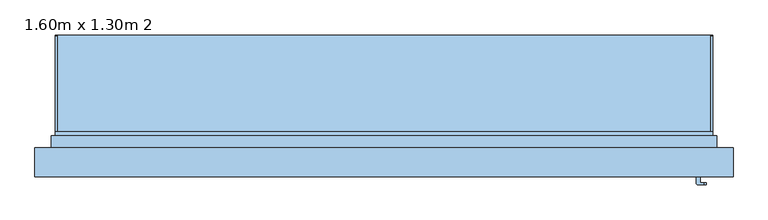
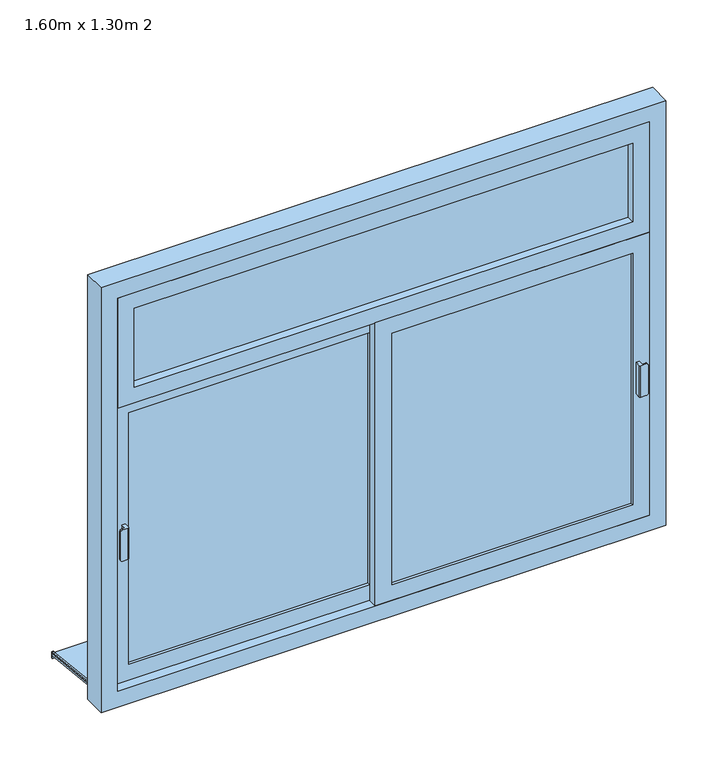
"""IFC4 building model written with IfcOpenShell, lengths in millimetres: window geometry, 2 Vantaux coul. - Imposte haute : 1.60m x 1.30m 2."""

from ifc_helpers import new_model, si_unit, point, frame, frame_2d, origin, place, context, project, spatial, polyline, circle_curve, trimmed, segment, composite_curve, outline, extrude, faceted_brep, source, transform, mapped, element, save
from ifc_brep_helpers import plane_surface, cylinder_surface, advanced_brep


def window_1_60m_x_1_30m_2_3fc02772(model_context):
    return source(origin(), model_context, "Body", "SolidModel", [
        advanced_brep(
        [(-760.0, -152.5313182, 1250.0), (-762.4686818, -155.0, 1250.0), (-779.0477825, -155.0, 1250.0), (-779.0477825, -150.0, 1250.0), (-770.0, -150.0, 1250.0), (-770.0, -135.0, 1250.0), (-760.0, -135.0, 1250.0), (-760.0, -152.5313182, 1350.0), (-760.0, -135.0, 1350.0), (-770.0, -135.0, 1350.0), (-770.0, -150.0, 1350.0), (-779.0477825, -150.0, 1350.0), (-779.0477825, -155.0, 1350.0), (-762.4686818, -155.0, 1350.0), (-785.0, -150.0, 1255.9522175), (-785.0, -150.0, 1344.0477825), (-785.0, -155.0, 1255.9522175), (-785.0, -155.0, 1344.0477825)],
        [
            (0, 1),
            (1, 2),
            (2, 3),
            (3, 4),
            (4, 5),
            (5, 6),
            (6, 0),
            (7, 8),
            (8, 9),
            (9, 10),
            (10, 11),
            (11, 12),
            (12, 13),
            (13, 7),
            (6, 8),
            (7, 0),
            (5, 9),
            (4, 10),
            (3, 14, circle_curve(frame((-779.0477825, -150.0, 1255.9522175), z_axis=(0.0, 1.0, 0.0), x_axis=(-1.0, 0.0, 0.0)), 5.9522175)),
            (14, 15),
            (15, 11, circle_curve(frame((-779.0477825, -150.0, 1344.0477825), z_axis=(0.0, 1.0, 0.0), x_axis=(-1.0, 0.0, 0.0)), 5.9522175)),
            (14, 16),
            (16, 17),
            (17, 15),
            (12, 17, circle_curve(frame((-779.0477825, -155.0, 1344.0477825), z_axis=(0.0, -1.0, 0.0), x_axis=(-1.0, 0.0, 0.0)), 5.9522175)),
            (16, 2, circle_curve(frame((-779.0477825, -155.0, 1255.9522175), z_axis=(0.0, -1.0, 0.0), x_axis=(-1.0, 0.0, 0.0)), 5.9522175)),
            (1, 13),
        ],
        [
            plane_surface(frame((-760.0, -135.0, 1250.0), z_axis=(0.0, 0.0, -1.0), x_axis=(0.0, 1.0, 0.0))),
            plane_surface(frame((-760.0, -135.0, 1350.0), z_axis=(0.0, 0.0, 1.0), x_axis=(0.0, -1.0, 0.0))),
            plane_surface(frame((-760.0, -152.5313182, 1250.0), z_axis=(1.0, 0.0, 0.0), x_axis=(0.0, 0.0, 1.0))),
            plane_surface(frame((-760.0, -135.0, 1250.0), z_axis=(0.0, 1.0, 0.0), x_axis=(0.0, 0.0, 1.0))),
            plane_surface(frame((-770.0, -135.0, 1250.0), z_axis=(-1.0, 0.0, 0.0), x_axis=(0.0, 0.0, 1.0))),
            plane_surface(frame((-770.0, -150.0, 1250.0), z_axis=(0.0, 1.0, 0.0), x_axis=(0.0, 0.0, 1.0))),
            plane_surface(frame((-785.0, -150.0, 1250.0), z_axis=(-1.0, 0.0, 0.0), x_axis=(0.0, 0.0, 1.0))),
            plane_surface(frame((-785.0, -155.0, 1250.0), z_axis=(0.0, -1.0, 0.0), x_axis=(0.0, 0.0, 1.0))),
            plane_surface(frame((-762.4686818, -155.0, 1250.0), z_axis=(0.7071067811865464, -0.7071067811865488, 0.0), x_axis=(0.0, 0.0, 1.0))),
            cylinder_surface(frame((-779.0477825, -150.0, 1344.0477825), z_axis=(0.0, 1.0, 0.0), x_axis=(-1.0, 0.0, 0.0)), 5.9522175),
            cylinder_surface(frame((-779.0477825, -150.0, 1255.9522175), z_axis=(0.0, 1.0, 0.0), x_axis=(-1.0, 0.0, 0.0)), 5.9522175),
        ],
        [
            (0, [[1, 2, 3, 4, 5, 6, 7]]),
            (1, [[8, 9, 10, 11, 12, 13, 14]]),
            (2, [[15, -8, 16, -7]]),
            (3, [[17, -9, -15, -6]]),
            (4, [[18, -10, -17, -5]]),
            (5, [[-4, 19, 20, 21, -11, -18]]),
            (6, [[22, 23, 24, -20]]),
            (7, [[-13, 25, -23, 26, -2, 27]]),
            (8, [[-16, -14, -27, -1]]),
            (9, [[-21, -24, -25, -12]]),
            (10, [[-26, -22, -19, -3]]),
        ],
    ),
        advanced_brep(
        [(760.0, -182.5313182, 1250.0), (760.0, -165.0, 1250.0), (770.0, -165.0, 1250.0), (770.0, -180.0, 1250.0), (779.0477825, -180.0, 1250.0), (779.0477825, -185.0, 1250.0), (762.4686818, -185.0, 1250.0), (760.0, -182.5313182, 1350.0), (762.4686818, -185.0, 1350.0), (779.0477825, -185.0, 1350.0), (779.0477825, -180.0, 1350.0), (770.0, -180.0, 1350.0), (770.0, -165.0, 1350.0), (760.0, -165.0, 1350.0), (785.0, -180.0, 1344.0477825), (785.0, -180.0, 1255.9522175), (785.0, -185.0, 1344.0477825), (785.0, -185.0, 1255.9522175)],
        [
            (0, 1),
            (1, 2),
            (2, 3),
            (3, 4),
            (4, 5),
            (5, 6),
            (6, 0),
            (7, 8),
            (8, 9),
            (9, 10),
            (10, 11),
            (11, 12),
            (12, 13),
            (13, 7),
            (0, 7),
            (13, 1),
            (12, 2),
            (11, 3),
            (10, 14, circle_curve(frame((779.0477825, -180.0, 1344.0477825), z_axis=(0.0, 1.0, 0.0), x_axis=(1.0, 0.0, 0.0)), 5.9522175)),
            (14, 15),
            (15, 4, circle_curve(frame((779.0477825, -180.0, 1255.9522175), z_axis=(0.0, 1.0, 0.0), x_axis=(1.0, 0.0, 0.0)), 5.9522175)),
            (14, 16),
            (16, 17),
            (17, 15),
            (8, 6),
            (5, 17, circle_curve(frame((779.0477825, -185.0, 1255.9522175), z_axis=(0.0, -1.0, 0.0), x_axis=(1.0, 0.0, 0.0)), 5.9522175)),
            (16, 9, circle_curve(frame((779.0477825, -185.0, 1344.0477825), z_axis=(0.0, -1.0, 0.0), x_axis=(1.0, 0.0, 0.0)), 5.9522175)),
        ],
        [
            plane_surface(frame((760.0, -165.0, 1250.0), z_axis=(0.0, 0.0, -1.0), x_axis=(0.0, 1.0, 0.0))),
            plane_surface(frame((760.0, -165.0, 1350.0), z_axis=(0.0, 0.0, 1.0), x_axis=(0.0, -1.0, 0.0))),
            plane_surface(frame((760.0, -182.5313182, 1250.0), z_axis=(-1.0, 0.0, 0.0), x_axis=(0.0, 0.0, 1.0))),
            plane_surface(frame((760.0, -165.0, 1250.0), z_axis=(0.0, 1.0, 0.0), x_axis=(0.0, 0.0, 1.0))),
            plane_surface(frame((770.0, -165.0, 1250.0), z_axis=(1.0, 0.0, 0.0), x_axis=(0.0, 0.0, 1.0))),
            plane_surface(frame((770.0, -180.0, 1250.0), z_axis=(0.0, 1.0, 0.0), x_axis=(0.0, 0.0, 1.0))),
            plane_surface(frame((785.0, -180.0, 1250.0), z_axis=(1.0, 0.0, 0.0), x_axis=(0.0, 0.0, 1.0))),
            plane_surface(frame((785.0, -185.0, 1250.0), z_axis=(0.0, -1.0, 0.0), x_axis=(0.0, 0.0, 1.0))),
            plane_surface(frame((762.4686818, -185.0, 1250.0), z_axis=(-0.7071067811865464, -0.7071067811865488, 0.0), x_axis=(0.0, 0.0, 1.0))),
            cylinder_surface(frame((779.0477825, -180.0, 1344.0477825), z_axis=(0.0, 1.0, 0.0), x_axis=(1.0, 0.0, 0.0)), 5.9522175),
            cylinder_surface(frame((779.0477825, -180.0, 1255.9522175), z_axis=(0.0, 1.0, 0.0), x_axis=(1.0, 0.0, 0.0)), 5.9522175),
        ],
        [
            (0, [[1, 2, 3, 4, 5, 6, 7]]),
            (1, [[8, 9, 10, 11, 12, 13, 14]]),
            (2, [[-1, 15, -14, 16]]),
            (3, [[-2, -16, -13, 17]]),
            (4, [[-3, -17, -12, 18]]),
            (5, [[-18, -11, 19, 20, 21, -4]]),
            (6, [[-20, 22, 23, 24]]),
            (7, [[25, -6, 26, -23, 27, -9]]),
            (8, [[-7, -25, -8, -15]]),
            (9, [[-10, -27, -22, -19]]),
            (10, [[-5, -21, -24, -26]]),
        ],
    ),
        extrude(outline(polyline([(180.0, 762.4025894), (180.0, 746.8468729), (175.0, 747.3723941), (175.0, 757.6728988), (-85.0, 785.0), (-85.0, 800.0), (-80.0, 800.0), (-80.0, 789.7296906), (180.0, 762.4025894)])), frame((-800.0, 0.0, 0.0), z_axis=(1.0, 0.0, 0.0), x_axis=(0.0, 1.0, 0.0)), (0.0, 0.0, 1.0), 1600.0),
        extrude(outline(composite_curve([segment(polyline([(180.0, 762.4025894), (-80.0, 789.7296906), (-80.0, 794.757232), (176.4181139, 767.8066022)]), True, "CONTINUOUS"), segment(trimmed(circle_curve(frame_2d((176.0, 763.8285146)), 4.0), [point((176.4181139, 767.8066022))], [point((180.0, 763.8285146))], False, "CARTESIAN"), True, "CONTINUOUS"), segment(polyline([(180.0, 763.8285146), (180.0, 762.4025894)]), True, "CONTINUOUS")], self_intersect=False)), frame((-800.0, 0.0, 0.0), z_axis=(1.0, 0.0, 0.0), x_axis=(0.0, 1.0, 0.0)), (0.0, 0.0, 1.0), 5.0),
        extrude(outline(composite_curve([segment(polyline([(180.0, 762.4025894), (-80.0, 789.7296906), (-80.0, 794.757232), (176.4181139, 767.8066022)]), True, "CONTINUOUS"), segment(trimmed(circle_curve(frame_2d((176.0, 763.8285146)), 4.0), [point((176.4181139, 767.8066022))], [point((180.0, 763.8285146))], False, "CARTESIAN"), True, "CONTINUOUS"), segment(polyline([(180.0, 763.8285146), (180.0, 762.4025894)]), True, "CONTINUOUS")], self_intersect=False)), frame((795.0, 0.0, 0.0), z_axis=(1.0, 0.0, 0.0), x_axis=(0.0, 1.0, 0.0)), (0.0, 0.0, 1.0), 5.0),
        extrude(outline(polyline([(-750.0, -114.0), (-25.0, -114.0), (-25.0, -126.0), (-750.0, -126.0), (-750.0, -114.0)])), frame((0.0, 0.0, 900.0), z_axis=(0.0, 0.0, 1.0), x_axis=(1.0, 0.0, 0.0)), (0.0, 0.0, 1.0), 800.0),
        extrude(outline(polyline([(850.0, 25.0), (1750.0, 25.0), (1750.0, -800.0), (850.0, -800.0), (850.0, 25.0)]), holes=[polyline([(900.0, -750.0), (1700.0, -750.0), (1700.0, -25.0), (900.0, -25.0), (900.0, -750.0)])]), frame((0.0, -135.0, 0.0), z_axis=(0.0, 1.0, 0.0), x_axis=(0.0, 0.0, 1.0)), (0.0, 0.0, 1.0), 30.0),
        extrude(outline(polyline([(25.0, -144.0), (750.0, -144.0), (750.0, -156.0), (25.0, -156.0), (25.0, -144.0)])), frame((0.0, 0.0, 900.0), z_axis=(0.0, 0.0, 1.0), x_axis=(1.0, 0.0, 0.0)), (0.0, 0.0, 1.0), 800.0),
        extrude(outline(polyline([(850.0, 800.0), (1750.0, 800.0), (1750.0, -25.0), (850.0, -25.0), (850.0, 800.0)]), holes=[polyline([(900.0, 25.0), (1700.0, 25.0), (1700.0, 750.0), (900.0, 750.0), (900.0, 25.0)])]), frame((0.0, -165.0, 0.0), z_axis=(0.0, 1.0, 0.0), x_axis=(0.0, 0.0, 1.0)), (0.0, 0.0, 1.0), 30.0),
        faceted_brep([(-850.0, -165.0, 800.0), (-850.0, -95.0, 800.0), (-800.0, -95.0, 800.0), (-800.0, -65.0, 800.0), (800.0, -65.0, 800.0), (800.0, -95.0, 800.0), (850.0, -95.0, 800.0), (850.0, -165.0, 800.0), (-850.0, -165.0, 2150.0), (-850.0, -95.0, 2150.0), (850.0, -95.0, 2150.0), (800.0, -95.0, 839.3761425), (-800.0, -95.0, 839.3761425), (-785.0, -95.0, 2085.0), (-785.0, -95.0, 865.0), (785.0, -95.0, 865.0), (785.0, -95.0, 2085.0), (-800.0, -55.0, 828.6581748), (-800.0, -55.0, 795.0), (-800.0, -65.0, 795.0), (800.0, -65.0, 795.0), (800.0, -55.0, 795.0), (800.0, -55.0, 828.6581748), (850.0, -165.0, 2150.0), (800.0, -165.0, 2100.0), (800.0, -165.0, 850.0), (-800.0, -165.0, 850.0), (-800.0, -165.0, 2100.0), (-785.0, -105.0, 2085.0), (-785.0, -105.0, 865.0), (785.0, -105.0, 865.0), (785.0, -105.0, 2085.0), (800.0, -105.0, 2100.0), (-800.0, -105.0, 2100.0), (-800.0, -105.0, 850.0), (800.0, -105.0, 850.0)], [[[0, 1, 2, 3, 4, 5, 6, 7]], [[1, 0, 8, 9]], [[1, 9, 10, 6, 5, 11, 12, 2], [13, 14, 15, 16]], [[12, 17, 18, 19, 3, 2]], [[3, 19, 20, 4]], [[4, 20, 21, 22, 11, 5]], [[6, 10, 23, 7]], [[0, 7, 23, 8], [24, 25, 26, 27]], [[13, 28, 29, 14]], [[29, 30, 15, 14]], [[31, 16, 15, 30]], [[17, 12, 11, 22]], [[32, 33, 34, 35], [28, 31, 30, 29]], [[34, 33, 27, 26]], [[26, 25, 35, 34]], [[24, 32, 35, 25]], [[18, 17, 22, 21]], [[19, 18, 21, 20]], [[13, 16, 31, 28]], [[33, 32, 24, 27]], [[10, 9, 8, 23]]]),
        extrude(outline(polyline([(800.0, -810.0), (800.0, -800.0), (2100.0, -800.0), (2100.0, 800.0), (800.0, 800.0), (800.0, 810.0), (2110.0, 810.0), (2110.0, -810.0), (800.0, -810.0)])), frame((0.0, -95.0, 0.0), z_axis=(0.0, 1.0, 0.0), x_axis=(0.0, 0.0, 1.0)), (0.0, 0.0, 1.0), 30.0),
        extrude(outline(polyline([(1750.0, -800.0), (1750.0, 800.0), (2100.0, 800.0), (2100.0, -800.0), (1750.0, -800.0)]), holes=[polyline([(2050.0, -750.0), (2050.0, 750.0), (1800.0, 750.0), (1800.0, -750.0), (2050.0, -750.0)])]), frame((0.0, -165.0, 0.0), z_axis=(0.0, 1.0, 0.0), x_axis=(0.0, 0.0, 1.0)), (0.0, 0.0, 1.0), 60.0),
        extrude(outline(polyline([(-750.0, -129.0), (750.0, -129.0), (750.0, -141.0), (-750.0, -141.0), (-750.0, -129.0)])), frame((0.0, 0.0, 1800.0), z_axis=(0.0, 0.0, 1.0), x_axis=(1.0, 0.0, 0.0)), (0.0, 0.0, 1.0), 250.0),
    ])


if __name__ == "__main__":
    model = new_model("IFC4")
    model_context = context("Model", 3, world=origin())
    ifc_project = project(units=[si_unit("LENGTHUNIT", "METRE", prefix="MILLI")], contexts=[model_context])
    site = spatial("IfcSite", under=ifc_project)
    building = spatial("IfcBuilding", under=site)
    placement = place(None, origin())
    window_1_60m_x_1_30m_2_shape = window_1_60m_x_1_30m_2_3fc02772(model_context)
    element("IfcWindow", 1, ObjectType="2 Vantaux coul. - Imposte haute : 1.60m x 1.30m 2", at=placement, inside=building, context=model_context, shape_type="MappedRepresentation", body=[
        mapped(window_1_60m_x_1_30m_2_shape, transform((0.0, 0.0, 0.0), x_axis=(1.0, 0.0, 0.0), y_axis=(0.0, 1.0, 0.0), z_axis=(0.0, 0.0, 1.0))),
    ])
    save(model, "model.ifc")
